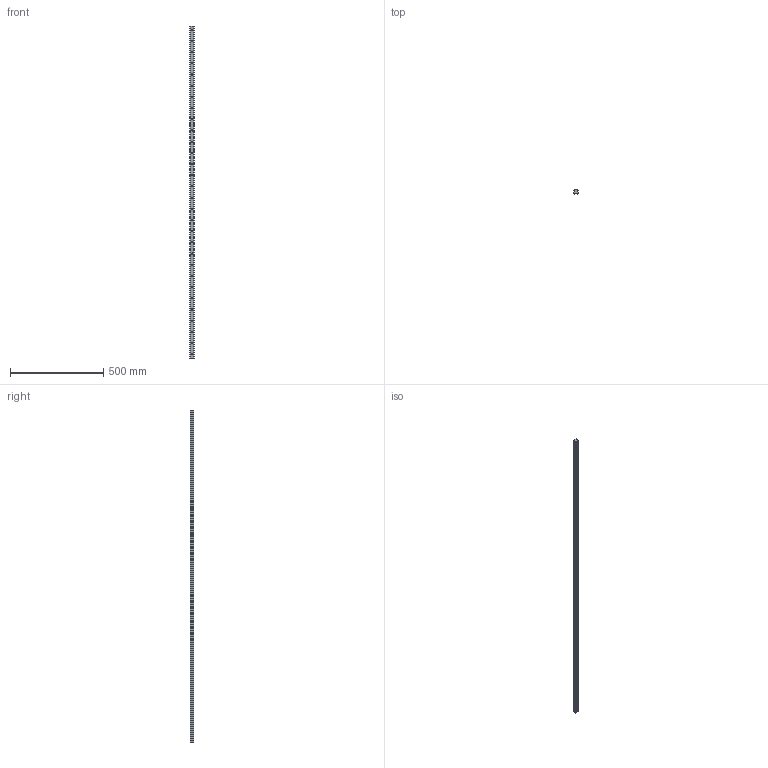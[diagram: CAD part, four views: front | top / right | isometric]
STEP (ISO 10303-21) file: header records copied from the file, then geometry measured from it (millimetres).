
FILE_DESCRIPTION (( 'STEP AP203' ), '1' );
FILE_NAME ('L1016.BRF25-1780.step', '2019-06-13T08:39:36', ( '' ), ( '' ), 'SwSTEP 2.0', 'SolidWorks 2017', '' );
FILE_SCHEMA (( 'CONFIG_CONTROL_DESIGN' ));
Length unit declared in the file: millimetre
Products named in the file (1): L1016.BRF25-1780
Bounding box: 23 x 19.2 x 1780 mm (x, y, z)
Volume: 679557.3 mm3; surface area: 164148.6 mm2
Topology: 1 solids, 1 shells, 236 faces, 552 edges, 318 vertices
Faces by surface type: cylinder 124, cone 60, plane 52
Entity records: 6421 total; most frequent: DIRECTION 1214, CARTESIAN_POINT 1047, ORIENTED_EDGE 984, EDGE_CURVE 492, AXIS2_PLACEMENT_3D 485, VERTEX_POINT 318, EDGE_LOOP 296, CIRCLE 248
